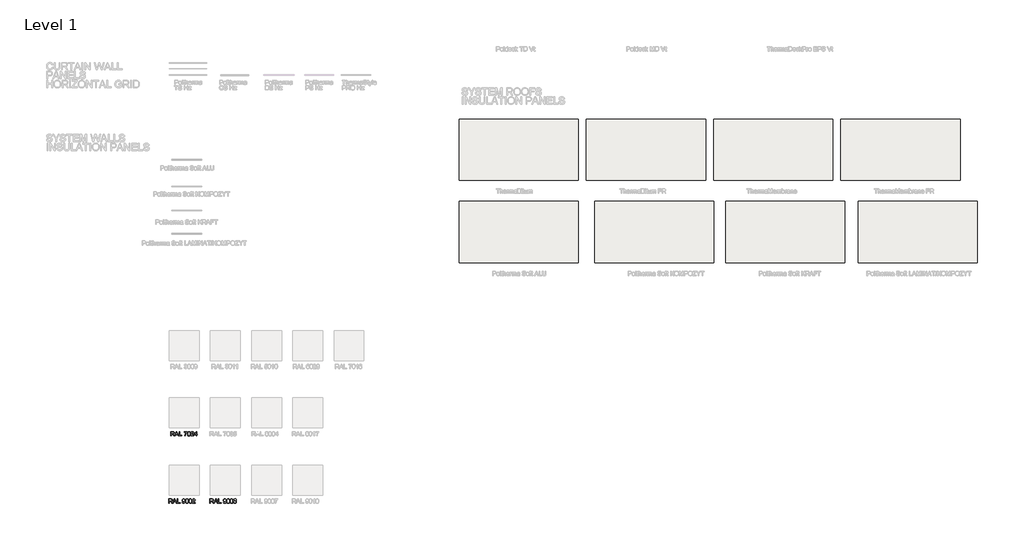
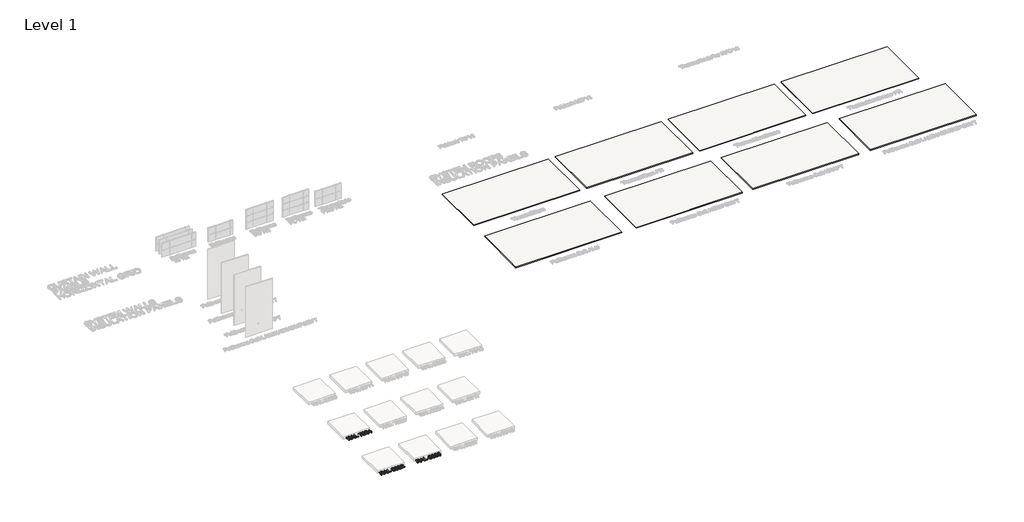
# One storey, part 3 of 27: 8 roofs, 3 proxies.
"""IFC4 building model written with IfcOpenShell, lengths in millimetres."""

import ifcopenshell
import ifcopenshell.guid

model = None  # the IFC model being written
_history = None  # IfcOwnerHistory: only IFC2X3 demands one
_inside = {}  # id of a spatial element -> (the spatial element, [elements in it])
_under = {}  # id of a project, library or spatial element -> (it, [spatial elements below it])
_declared = {}  # id of a project -> (the project, [libraries it declares])
_typed = {}  # id of a type object -> (the type object, [elements of that type])
_made_of = {}  # id of a material, layer set ... -> (it, [elements and type objects made of it])


def new_model(schema):
    """Start an empty IFC model of exactly this schema.

    Asked for "IFC4X3", IfcOpenShell would pick the latest addendum, in which some entities
    have other attributes; the version numbers below select the first issue.
    IFC2X3 requires an IfcOwnerHistory on every rooted entity: one is made here for all.
    """
    global model, _history
    if schema == "IFC4X3":
        model = ifcopenshell.file(schema_version=(4, 3, 0, 0))
    else:
        model = ifcopenshell.file(schema=schema)
    _inside.clear()
    _under.clear()
    _declared.clear()
    _typed.clear()
    _made_of.clear()
    _history = None
    if model.schema == "IFC2X3":
        org = make("IfcOrganization", Name="unknown")
        user = make(
            "IfcPersonAndOrganization",
            ThePerson=make("IfcPerson", FamilyName="unknown"),
            TheOrganization=org,
        )
        app = make(
            "IfcApplication",
            ApplicationDeveloper=org,
            Version="unknown",
            ApplicationFullName="unknown",
            ApplicationIdentifier="unknown",
        )
        _history = make(
            "IfcOwnerHistory",
            OwningUser=user,
            OwningApplication=app,
            ChangeAction="ADDED",
            CreationDate=0,
        )
    return model


def make(cls, **values):
    """One entity of the class cls with the attributes given. An attribute that is None is left unset."""
    return model.create_entity(
        cls, **{name: value for name, value in values.items() if value is not None}
    )


def rooted(cls, **values):
    """An entity with a GlobalId (a new one), such as an element, a storey or a relation."""
    return make(cls, GlobalId=ifcopenshell.guid.new(), OwnerHistory=_history, **values)


def si_unit(unit_type, name, prefix=None):
    """IfcSIUnit, for example si_unit("LENGTHUNIT", "METRE", prefix="MILLI")."""
    return make("IfcSIUnit", UnitType=unit_type, Prefix=prefix, Name=name)


def assignment(units):
    """IfcUnitAssignment: the units of a project."""
    return None if units is None else make("IfcUnitAssignment", Units=units)


def point(xyz):
    """IfcCartesianPoint."""
    return None if xyz is None else make("IfcCartesianPoint", Coordinates=xyz)


def direction(xyz):
    """IfcDirection."""
    return None if xyz is None else make("IfcDirection", DirectionRatios=xyz)


def frame(location, z_axis=None, x_axis=None):
    """IfcAxis2Placement3D, a coordinate frame: its origin and axes. An axis left out is left unset."""
    return make(
        "IfcAxis2Placement3D",
        Location=point(location),
        Axis=direction(z_axis),
        RefDirection=direction(x_axis),
    )


def origin():
    """The frame at (0, 0, 0) with its axes left unset."""
    return frame((0.0, 0.0, 0.0))


def origin_with_axes():
    """The frame at (0, 0, 0) with the z axis (0, 0, 1) and the x axis (1, 0, 0) written out."""
    return frame((0.0, 0.0, 0.0), z_axis=(0.0, 0.0, 1.0), x_axis=(1.0, 0.0, 0.0))


def place(relative_to, where):
    """IfcLocalPlacement: puts the frame where relative to a parent placement (None: the world)."""
    return make(
        "IfcLocalPlacement", PlacementRelTo=relative_to, RelativePlacement=where
    )


def context(
    kind, dimensions, precision=None, world=None, true_north=None, identifier=None
):
    """IfcGeometricRepresentationContext, for example the 3D "Model" context."""
    return make(
        "IfcGeometricRepresentationContext",
        ContextIdentifier=identifier,
        ContextType=kind,
        CoordinateSpaceDimension=dimensions,
        Precision=precision,
        WorldCoordinateSystem=world,
        TrueNorth=true_north,
    )


def project(units=None, contexts=None):
    """IfcProject with its units and contexts."""
    return rooted(
        "IfcProject",
        Name="project",
        RepresentationContexts=contexts,
        UnitsInContext=assignment(units),
    )


def spatial(cls, under=None, at=None, **own):
    """A site, building, storey or space (cls), placed at a placement, below another one or the project."""
    s = rooted(cls, ObjectPlacement=at, **own)
    if under is not None:
        _under.setdefault(under.id(), (under, []))[1].append(s)
    return s


def polyline(points):
    """IfcPolyline through the points."""
    return make("IfcPolyline", Points=[point(p) for p in points])


def outline(outer, holes=None, kind="AREA"):
    """IfcArbitraryClosedProfileDef: a profile drawn as a closed curve; with holes, ...WithVoids."""
    if holes is None:
        return make("IfcArbitraryClosedProfileDef", ProfileType=kind, OuterCurve=outer)
    return make(
        "IfcArbitraryProfileDefWithVoids",
        ProfileType=kind,
        OuterCurve=outer,
        InnerCurves=holes,
    )


def extrude(swept, where, along, depth):
    """IfcExtrudedAreaSolid: the profile swept, set in the frame where, extruded along a direction by depth."""
    return make(
        "IfcExtrudedAreaSolid",
        SweptArea=swept,
        Position=where,
        ExtrudedDirection=direction(along),
        Depth=depth,
    )


def shape(context_of_items, identifier, shape_type, items):
    """IfcShapeRepresentation: the items that make up one representation, for example the "Body"."""
    return make(
        "IfcShapeRepresentation",
        ContextOfItems=context_of_items,
        RepresentationIdentifier=identifier,
        RepresentationType=shape_type,
        Items=items,
    )


def made_of(thing, what):
    """Note that an element or type object is made of a material, layer set ...; save() writes the relation."""
    if what is not None:
        _made_of.setdefault(what.id(), (what, []))[1].append(thing)
    return thing


def element(
    cls,
    number,
    at=None,
    inside=None,
    cuts=None,
    type_object=None,
    material=None,
    context=None,
    identifier="Body",
    shape_type=None,
    held_by="IfcProductDefinitionShape",
    body=None,
    shapes=None,
    **own,
):
    """One element of the class cls, such as IfcWall. Its Tag is "e" and its number.

    at: its placement. inside: the storey or other place that contains it. cuts: it is an
    opening in that element (IfcRelVoidsElement). A single representation is given by context,
    identifier, shape_type and body (its items); several are given by shapes. held_by: the class
    of the entity that holds the representations. save() writes the other relations.
    """
    e = rooted(cls, Tag="e%d" % number, ObjectPlacement=at, **own)
    if body is not None:
        shapes = [shape(context, identifier, shape_type, body)]
    if shapes is not None:
        e.Representation = make(held_by, Representations=shapes)
    if inside is not None:
        _inside.setdefault(inside.id(), (inside, []))[1].append(e)
    if cuts is not None:
        rooted(
            "IfcRelVoidsElement", RelatingBuildingElement=cuts, RelatedOpeningElement=e
        )
    if type_object is not None:
        _typed.setdefault(type_object.id(), (type_object, []))[1].append(e)
    return made_of(e, material)


def aggregate(whole, parts):
    """IfcRelAggregates: a whole, such as a stair, and the parts it consists of."""
    return rooted("IfcRelAggregates", RelatingObject=whole, RelatedObjects=parts)


def save(model, path):
    """Write the relations noted so far, then the file.

    IfcRelAggregates (storeys below a building ...), IfcRelContainedInSpatialStructure (elements
    in a storey), IfcRelDefinesByType, IfcRelAssociatesMaterial and IfcRelDeclares: one each for
    every whole, place, type object, material and project.
    """
    for whole, parts in _under.values():
        aggregate(whole, parts)
    for where, things in _inside.values():
        rooted(
            "IfcRelContainedInSpatialStructure",
            RelatedElements=things,
            RelatingStructure=where,
        )
    for kind, things in _typed.values():
        rooted("IfcRelDefinesByType", RelatedObjects=things, RelatingType=kind)
    for what, things in _made_of.values():
        rooted("IfcRelAssociatesMaterial", RelatedObjects=things, RelatingMaterial=what)
    for by, libraries in _declared.values():
        rooted("IfcRelDeclares", RelatingContext=by, RelatedDefinitions=libraries)
    model.write(path)


model = new_model("IFC4")

# Units and contexts
model_context = context("Model", 3, world=origin())
ifc_project = project(units=[si_unit("LENGTHUNIT", "METRE", prefix="MILLI")], contexts=[model_context])

# Site, building, storey
site = spatial("IfcSite", under=ifc_project)
building = spatial("IfcBuilding", under=site)
storey = spatial("IfcBuildingStorey", under=building, Name="Level 1", Elevation=0.0)

# Proxies
placement = place(None, origin())
element("IfcBuildingElementProxy", 1, Name="600mm Arial", ObjectType="600mm Arial", at=placement, inside=storey, context=model_context, shape_type="SweptSolid", body=[
    extrude(outline(polyline([(-12376.4191783, -66508.2089819), (-12376.4191783, -65917.4397512), (-12121.8518706, -65917.4397512), (-12053.4323995, -65921.4241262), (-12003.6547552, -65933.3772512), (-11984.4450197, -65942.8784531), (-11967.2725437, -65955.4445588), (-11952.1373273, -65971.0755685), (-11939.0393706, -65989.7714819), (-11928.4699596, -66010.5271911), (-11920.9203802, -66032.3375877), (-11914.8807168, -66079.1224435), (-11917.3822192, -66109.4649915), (-11924.8867264, -66137.3195588), (-11937.3942384, -66162.6861454), (-11954.9047552, -66185.5647512), (-11977.6436374, -66205.2252079), (-12005.8362456, -66220.9373473), (-12039.4825798, -66232.7011694), (-12078.5826398, -66240.5166742), (-12054.2436975, -66256.4181165), (-12036.611486, -66272.1032127), (-11976.7557168, -66348.1128281), (-11878.2461014, -66508.2089819), (-11964.0634091, -66508.2089819), (-12040.9384091, -66385.7570588), (-12096.4672552, -66304.6993665), (-12117.1102841, -66281.0635492), (-12135.4816783, -66266.4060973), (-12170.6018706, -66252.3435973), (-12213.4384091, -66249.7474435), (-12302.5730245, -66249.7474435), (-12302.5730245, -66508.2089819), (-12376.4191783, -66508.2089819)]), holes=[polyline([(-12302.5730245, -66175.9012896), (-12137.2845629, -66175.9012896), (-12089.814611, -66173.2871069), (-12052.9816783, -66165.4445588), (-12025.2533129, -66151.8508088), (-12005.0970629, -66131.9830204), (-11992.8194187, -66107.9505685), (-11988.7268706, -66081.8628281), (-11990.6784932, -66062.9776117), (-11996.533361, -66045.8411935), (-12006.291474, -66030.4535733), (-12019.9528322, -66016.8147512), (-12037.8329403, -66005.645881), (-12060.2473033, -65997.6681165), (-12087.1959211, -65992.8814579), (-12118.6787937, -65991.285905), (-12302.5730245, -65991.285905), (-12302.5730245, -66175.9012896)])]), origin_with_axes(), (0.0, 0.0, 1.0), 150.0),
    extrude(outline(polyline([(-11854.4480245, -66508.2089819), (-11618.6307168, -65917.4397512), (-11555.7461014, -65917.4397512), (-11319.9287937, -66508.2089819), (-11397.9576398, -66508.2089819), (-11465.6018706, -66323.5935973), (-11708.9191783, -66323.5935973), (-11776.4191783, -66508.2089819), (-11854.4480245, -66508.2089819)]), holes=[polyline([(-11681.8037937, -66249.7474435), (-11492.5730245, -66249.7474435), (-11545.7941783, -66104.5070588), (-11587.1884091, -65991.285905), (-11623.9672552, -66091.8147512), (-11681.8037937, -66249.7474435)])]), origin_with_axes(), (0.0, 0.0, 1.0), 150.0),
    extrude(outline(polyline([(-11241.0345629, -66508.2089819), (-11241.0345629, -65917.4397512), (-11167.1884091, -65917.4397512), (-11167.1884091, -66434.3628281), (-10871.8037937, -66434.3628281), (-10871.8037937, -66508.2089819), (-11241.0345629, -66508.2089819)])), origin_with_axes(), (0.0, 0.0, 1.0), 150.0),
    extrude(outline(polyline([(-10585.6499475, -66000.5166742), (-10585.6499475, -65926.6705204), (-10197.9576398, -65926.6705204), (-10197.9576398, -65986.3820588), (-10253.2160533, -66056.3159531), (-10307.9336014, -66145.2522512), (-10356.1968225, -66245.0779723), (-10392.0922552, -66347.6801358), (-10409.6884091, -66424.4469627), (-10419.4961014, -66508.2089819), (-10493.3422552, -66508.2089819), (-10485.3554764, -66432.0911935), (-10463.9912937, -66341.6224435), (-10429.8266302, -66245.7270108), (-10383.4384091, -66153.3291742), (-10329.2797552, -66069.80153), (-10271.8037937, -66000.5166742), (-10585.6499475, -66000.5166742)])), origin_with_axes(), (0.0, 0.0, 1.0), 150.0),
    extrude(outline(polyline([(-10133.3422552, -66217.5839819), (-10127.9155725, -66123.0226838), (-10121.1322192, -66082.9220228), (-10111.6355245, -66047.6080204), (-10099.4660533, -66016.7922151), (-10084.6643706, -65990.1861454), (-10067.2304764, -65967.7898113), (-10047.1643706, -65949.6032127), (-10024.3984451, -65935.5316983), (-9998.8650918, -65925.4806165), (-9970.5643105, -65919.4499675), (-9939.4961014, -65917.4397512), (-9893.9912937, -65922.1993665), (-9853.2461014, -65936.4782127), (-9819.1715822, -65959.7173954), (-9793.6787937, -65991.3580204), (-9774.423986, -66031.129655), (-9759.0634091, -66078.7618665), (-9749.0033129, -66139.2486454), (-9745.6499475, -66217.5839819), (-9751.0225437, -66311.6044146), (-9757.7382889, -66351.5698593), (-9767.1403322, -66386.8387896), (-9779.2151519, -66417.6681165), (-9793.9492264, -66444.3147512), (-9811.3425557, -66466.7786935), (-9831.3951398, -66485.0599435), (-9854.1881086, -66499.2261093), (-9879.8025918, -66509.3447992), (-9908.2385894, -66515.4160132), (-9939.4961014, -66517.4397512), (-9980.1691783, -66513.9241262), (-10016.2268706, -66503.3772512), (-10047.6691783, -66485.7991262), (-10074.4961014, -66461.1897512), (-10100.2412937, -66416.7035733), (-10118.6307168, -66361.2738858), (-10129.6643706, -66294.9006887), (-10133.3422552, -66217.5839819)]), holes=[polyline([(-10059.4961014, -66217.4397512), (-10057.3326398, -66281.6359651), (-10050.8422552, -66333.5996069), (-10040.0249475, -66373.3306766), (-10024.8807168, -66400.8291742), (-10006.5634091, -66419.5386093), (-9986.2268706, -66432.9024915), (-9963.8711014, -66440.9208209), (-9939.4961014, -66443.5935973), (-9915.1211014, -66440.9118064), (-9892.7653322, -66432.8664338), (-9872.4287937, -66419.4574795), (-9854.111486, -66400.6849435), (-9838.9672552, -66373.1413738), (-9828.1499475, -66333.4193185), (-9821.6595629, -66281.5187776), (-9819.4961014, -66217.4397512), (-9821.5874475, -66154.942756), (-9827.861486, -66103.8940781), (-9838.3182168, -66064.2937175), (-9852.9576398, -66036.1416742), (-9870.9684572, -66016.5172752), (-9891.5393706, -66002.4998473), (-9914.6703802, -65994.0893906), (-9940.361486, -65991.285905), (-9964.6102841, -65993.7558569), (-9986.5874475, -66001.1657127), (-10006.2929764, -66013.5154723), (-10023.7268706, -66030.8051358), (-10039.3759091, -66061.4541742), (-10050.5537937, -66102.7762896), (-10057.2605245, -66154.7714819), (-10059.4961014, -66217.4397512)])]), origin_with_axes(), (0.0, 0.0, 1.0), 150.0),
    extrude(outline(polyline([(-9302.5730245, -66434.3628281), (-9302.5730245, -66508.2089819), (-9690.2653322, -66508.2089819), (-9688.642736, -66482.2113858), (-9682.3326398, -66457.2955204), (-9664.1235052, -66417.5058569), (-9637.4768706, -66378.9060973), (-9598.9311975, -66338.5034531), (-9545.0249475, -66293.3051358), (-9465.3374475, -66222.5238858), (-9417.5249475, -66170.2762896), (-9403.579635, -66148.9301358), (-9393.6186975, -66127.8724435), (-9387.642135, -66107.1032127), (-9385.6499475, -66086.6224435), (-9387.5294548, -66067.3541141), (-9393.1679764, -66049.64528), (-9402.5655124, -66033.4959411), (-9415.7220629, -66018.9060973), (-9431.9074596, -66006.8222632), (-9450.3915341, -65998.1909531), (-9471.1742865, -65993.012167), (-9494.2557168, -65991.285905), (-9518.572123, -65992.9716021), (-9540.3194187, -65998.0286935), (-9559.4976038, -66006.457179), (-9576.1066783, -66018.2570588), (-9589.5426759, -66033.0316983), (-9599.2016302, -66050.3844627), (-9605.0835413, -66070.3153521), (-9607.1884091, -66092.8243665), (-9681.0345629, -66083.5935973), (-9674.6839019, -66045.4716021), (-9663.1319187, -66012.1633088), (-9646.3786134, -65983.6687175), (-9624.423986, -65959.9878281), (-9597.7728442, -65941.3730444), (-9566.9299956, -65928.0767704), (-9531.8954403, -65920.099006), (-9492.6691783, -65917.4397512), (-9453.0913538, -65920.3964819), (-9417.8674956, -65929.2666742), (-9386.9976038, -65944.0503281), (-9360.4816783, -65964.7474435), (-9339.1851038, -65989.8255685), (-9323.9732648, -66017.7522512), (-9314.8461615, -66048.5274915), (-9311.8037937, -66082.1512896), (-9315.0850437, -66117.4697992), (-9324.9287937, -66152.1753281), (-9342.3987456, -66187.4758088), (-9368.5586014, -66224.5791742), (-9410.2593225, -66268.8760492), (-9474.3518706, -66325.7570588), (-9559.3037937, -66396.7907127), (-9592.6211014, -66434.3628281), (-9302.5730245, -66434.3628281)])), origin_with_axes(), (0.0, 0.0, 1.0), 150.0),
    extrude(outline(polyline([(-8988.7268706, -66508.2089819), (-8988.7268706, -66369.7474435), (-9256.4191783, -66369.7474435), (-9256.4191783, -66295.9012896), (-8970.2653322, -65926.6705204), (-8914.8807168, -65926.6705204), (-8914.8807168, -66295.9012896), (-8841.0345629, -66295.9012896), (-8841.0345629, -66369.7474435), (-8914.8807168, -66369.7474435), (-8914.8807168, -66508.2089819), (-8988.7268706, -66508.2089819)]), holes=[polyline([(-8988.7268706, -66295.9012896), (-8988.7268706, -66067.7282127), (-9165.5537937, -66295.9012896), (-8988.7268706, -66295.9012896)])]), origin_with_axes(), (0.0, 0.0, 1.0), 150.0),
])
element("IfcBuildingElementProxy", 2, Name="600mm Arial", ObjectType="600mm Arial", at=placement, inside=storey, context=model_context, shape_type="SweptSolid", body=[
    extrude(outline(polyline([(-7140.486023, -75508.2089819), (-7140.486023, -74917.4397512), (-6885.9187153, -74917.4397512), (-6817.4992441, -74921.4241262), (-6767.7215999, -74933.3772512), (-6748.5118643, -74942.8784531), (-6731.3393884, -74955.4445588), (-6716.204172, -74971.0755685), (-6703.1062153, -74989.7714819), (-6692.5368042, -75010.5271911), (-6684.9872249, -75032.3375877), (-6678.9475614, -75079.1224435), (-6681.4490638, -75109.4649915), (-6688.953571, -75137.3195588), (-6701.4610831, -75162.6861454), (-6718.9715999, -75185.5647512), (-6741.7104821, -75205.2252079), (-6769.9030903, -75220.9373473), (-6803.5494244, -75232.7011694), (-6842.6494845, -75240.5166742), (-6818.3105422, -75256.4181165), (-6800.6783307, -75272.1032127), (-6740.8225614, -75348.1128281), (-6642.312946, -75508.2089819), (-6728.1302537, -75508.2089819), (-6805.0052537, -75385.7570588), (-6860.5340999, -75304.6993665), (-6881.1771287, -75281.0635492), (-6899.548523, -75266.4060973), (-6934.6687153, -75252.3435973), (-6977.5052537, -75249.7474435), (-7066.6398691, -75249.7474435), (-7066.6398691, -75508.2089819), (-7140.486023, -75508.2089819)]), holes=[polyline([(-7066.6398691, -75175.9012896), (-6901.3514076, -75175.9012896), (-6853.8814557, -75173.2871069), (-6817.048523, -75165.4445588), (-6789.3201576, -75151.8508088), (-6769.1639076, -75131.9830204), (-6756.8862634, -75107.9505685), (-6752.7937153, -75081.8628281), (-6754.7453379, -75062.9776117), (-6760.6002057, -75045.8411935), (-6770.3583186, -75030.4535733), (-6784.0196768, -75016.8147512), (-6801.899785, -75005.645881), (-6824.314148, -74997.6681165), (-6851.2627658, -74992.8814579), (-6882.7456384, -74991.285905), (-7066.6398691, -74991.285905), (-7066.6398691, -75175.9012896)])]), origin_with_axes(), (0.0, 0.0, 1.0), 150.0),
    extrude(outline(polyline([(-6618.5148691, -75508.2089819), (-6382.6975614, -74917.4397512), (-6319.812946, -74917.4397512), (-6083.9956384, -75508.2089819), (-6162.0244845, -75508.2089819), (-6229.6687153, -75323.5935973), (-6472.986023, -75323.5935973), (-6540.486023, -75508.2089819), (-6618.5148691, -75508.2089819)]), holes=[polyline([(-6445.8706384, -75249.7474435), (-6256.6398691, -75249.7474435), (-6309.861023, -75104.5070588), (-6351.2552537, -74991.285905), (-6388.0340999, -75091.8147512), (-6445.8706384, -75249.7474435)])]), origin_with_axes(), (0.0, 0.0, 1.0), 150.0),
    extrude(outline(polyline([(-6005.1014076, -75508.2089819), (-6005.1014076, -74917.4397512), (-5931.2552537, -74917.4397512), (-5931.2552537, -75434.3628281), (-5635.8706384, -75434.3628281), (-5635.8706384, -75508.2089819), (-6005.1014076, -75508.2089819)])), origin_with_axes(), (0.0, 0.0, 1.0), 150.0),
    extrude(outline(polyline([(-5340.486023, -75360.5166742), (-5266.6398691, -75351.285905), (-5254.0196768, -75393.2029723), (-5244.734821, -75409.1449795), (-5233.4667922, -75421.7426358), (-5220.3417922, -75431.3024314), (-5205.486023, -75438.1308569), (-5170.5821768, -75443.5935973), (-5139.266071, -75440.0779723), (-5110.798523, -75429.5310973), (-5087.1446768, -75413.1068185), (-5070.2696768, -75391.9589819), (-5057.4872249, -75364.1585012), (-5046.111023, -75327.7762896), (-5038.1062153, -75286.0214819), (-5035.437946, -75242.1032127), (-5035.8706384, -75227.6801358), (-5061.453571, -75258.9060973), (-5094.9331384, -75283.6416742), (-5133.8934749, -75299.7594627), (-5175.9187153, -75305.1320588), (-5210.9983427, -75301.8508088), (-5243.2564557, -75292.0070588), (-5272.6930542, -75275.6008088), (-5299.3081384, -75252.6320588), (-5321.3619244, -75224.2997271), (-5337.1146287, -75191.8027319), (-5346.5662513, -75155.1410733), (-5349.7167922, -75114.3147512), (-5346.4130061, -75072.1272512), (-5336.501648, -75034.2666742), (-5319.9827177, -75000.7330204), (-5296.8562153, -74971.5262896), (-5268.7537513, -74947.863429), (-5237.3069364, -74930.9613858), (-5202.5157706, -74920.8201598), (-5164.3802537, -74917.4397512), (-5136.2237033, -74919.3688377), (-5109.3021287, -74925.1560973), (-5083.6155302, -74934.80153), (-5059.1639076, -74948.3051358), (-5036.7630662, -74965.3784531), (-5017.2288114, -74985.7330204), (-5000.5611432, -75009.3688377), (-4986.7600614, -75036.285905), (-4975.9382465, -75068.0347031), (-4968.2083787, -75106.1657127), (-4963.5704581, -75150.6789338), (-4962.0244845, -75201.5743665), (-4963.5659509, -75255.0253882), (-4968.1903499, -75302.7342223), (-4975.8976816, -75344.7008689), (-4986.687946, -75380.9253281), (-5000.5205783, -75412.2910132), (-5017.3550134, -75439.6813377), (-5037.1912513, -75463.0963016), (-5060.0292922, -75482.535905), (-5085.4094004, -75497.8063377), (-5112.8718403, -75508.7137896), (-5142.4166119, -75515.2582608), (-5174.0437153, -75517.4397512), (-5207.2077778, -75514.8661334), (-5237.1807345, -75507.14528), (-5263.9625855, -75494.2771911), (-5287.5533307, -75476.2618665), (-5307.3580182, -75453.5860853), (-5322.781696, -75426.7366262), (-5333.8243643, -75395.7134891), (-5340.486023, -75360.5166742)]), holes=[polyline([(-5035.8706384, -75112.5839819), (-5037.8628259, -75086.1176358), (-5043.8393884, -75062.535905), (-5053.8003259, -75041.8387896), (-5067.7456384, -75024.0262896), (-5084.9902297, -75009.7023713), (-5104.8490037, -74999.4710012), (-5127.3219605, -74993.332179), (-5152.4090999, -74991.285905), (-5178.298523, -74993.4899314), (-5201.736023, -75000.1020108), (-5222.7215999, -75011.122143), (-5241.2552537, -75026.5503281), (-5256.3994845, -75045.4851238), (-5267.2167922, -75067.0250877), (-5273.7071768, -75091.1702199), (-5275.8706384, -75117.9205204), (-5273.8243643, -75141.9124074), (-5267.6855422, -75163.55153), (-5257.454172, -75182.8378882), (-5243.1302537, -75199.7714819), (-5225.3087393, -75213.559042), (-5204.5845807, -75223.4072992), (-5180.9577778, -75229.3162536), (-5154.4283307, -75231.285905), (-5129.6882465, -75229.3162536), (-5107.2468403, -75223.4072992), (-5087.1041119, -75213.559042), (-5069.2600614, -75199.7714819), (-5054.6521888, -75182.5043545), (-5044.2179941, -75162.2173954), (-5037.9574773, -75138.9106045), (-5035.8706384, -75112.5839819)])]), origin_with_axes(), (0.0, 0.0, 1.0), 150.0),
    extrude(outline(polyline([(-4897.4090999, -75217.5839819), (-4891.9824172, -75123.0226838), (-4885.1990638, -75082.9220228), (-4875.7023691, -75047.6080204), (-4863.532898, -75016.7922151), (-4848.7312153, -74990.1861454), (-4831.297321, -74967.7898113), (-4811.2312153, -74949.6032127), (-4788.4652898, -74935.5316983), (-4762.9319364, -74925.4806165), (-4734.6311552, -74919.4499675), (-4703.562946, -74917.4397512), (-4658.0581384, -74922.1993665), (-4617.312946, -74936.4782127), (-4583.2384268, -74959.7173954), (-4557.7456384, -74991.3580204), (-4538.4908307, -75031.129655), (-4523.1302537, -75078.7618665), (-4513.0701576, -75139.2486454), (-4509.7167922, -75217.5839819), (-4515.0893884, -75311.6044146), (-4521.8051335, -75351.5698593), (-4531.2071768, -75386.8387896), (-4543.2819965, -75417.6681165), (-4558.016071, -75444.3147512), (-4575.4094004, -75466.7786935), (-4595.4619845, -75485.0599435), (-4618.2549533, -75499.2261093), (-4643.8694364, -75509.3447992), (-4672.305434, -75515.4160132), (-4703.562946, -75517.4397512), (-4744.236023, -75513.9241262), (-4780.2937153, -75503.3772512), (-4811.736023, -75485.7991262), (-4838.562946, -75461.1897512), (-4864.3081384, -75416.7035733), (-4882.6975614, -75361.2738858), (-4893.7312153, -75294.9006887), (-4897.4090999, -75217.5839819)]), holes=[polyline([(-4823.562946, -75217.4397512), (-4821.3994845, -75281.6359651), (-4814.9090999, -75333.5996069), (-4804.0917922, -75373.3306766), (-4788.9475614, -75400.8291742), (-4770.6302537, -75419.5386093), (-4750.2937153, -75432.9024915), (-4727.937946, -75440.9208209), (-4703.562946, -75443.5935973), (-4679.187946, -75440.9118064), (-4656.8321768, -75432.8664338), (-4636.4956384, -75419.4574795), (-4618.1783307, -75400.6849435), (-4603.0340999, -75373.1413738), (-4592.2167922, -75333.4193185), (-4585.7264076, -75281.5187776), (-4583.562946, -75217.4397512), (-4585.6542922, -75154.942756), (-4591.9283307, -75103.8940781), (-4602.3850614, -75064.2937175), (-4617.0244845, -75036.1416742), (-4635.0353018, -75016.5172752), (-4655.6062153, -75002.4998473), (-4678.7372249, -74994.0893906), (-4704.4283307, -74991.285905), (-4728.6771287, -74993.7558569), (-4750.6542922, -75001.1657127), (-4770.359821, -75013.5154723), (-4787.7937153, -75030.8051358), (-4803.4427537, -75061.4541742), (-4814.6206384, -75102.7762896), (-4821.3273691, -75154.7714819), (-4823.562946, -75217.4397512)])]), origin_with_axes(), (0.0, 0.0, 1.0), 150.0),
    extrude(outline(polyline([(-4445.1014076, -75217.5839819), (-4439.6747249, -75123.0226838), (-4432.8913715, -75082.9220228), (-4423.3946768, -75047.6080204), (-4411.2252057, -75016.7922151), (-4396.423523, -74990.1861454), (-4378.9896287, -74967.7898113), (-4358.923523, -74949.6032127), (-4336.1575975, -74935.5316983), (-4310.6242441, -74925.4806165), (-4282.3234629, -74919.4499675), (-4251.2552537, -74917.4397512), (-4205.750446, -74922.1993665), (-4165.0052537, -74936.4782127), (-4130.9307345, -74959.7173954), (-4105.437946, -74991.3580204), (-4086.1831384, -75031.129655), (-4070.8225614, -75078.7618665), (-4060.7624653, -75139.2486454), (-4057.4090999, -75217.5839819), (-4062.781696, -75311.6044146), (-4069.4974412, -75351.5698593), (-4078.8994845, -75386.8387896), (-4090.9743042, -75417.6681165), (-4105.7083787, -75444.3147512), (-4123.1017081, -75466.7786935), (-4143.1542922, -75485.0599435), (-4165.947261, -75499.2261093), (-4191.5617441, -75509.3447992), (-4219.9977417, -75515.4160132), (-4251.2552537, -75517.4397512), (-4291.9283307, -75513.9241262), (-4327.986023, -75503.3772512), (-4359.4283307, -75485.7991262), (-4386.2552537, -75461.1897512), (-4412.000446, -75416.7035733), (-4430.3898691, -75361.2738858), (-4441.423523, -75294.9006887), (-4445.1014076, -75217.5839819)]), holes=[polyline([(-4371.2552537, -75217.4397512), (-4369.0917922, -75281.6359651), (-4362.6014076, -75333.5996069), (-4351.7840999, -75373.3306766), (-4336.6398691, -75400.8291742), (-4318.3225614, -75419.5386093), (-4297.986023, -75432.9024915), (-4275.6302537, -75440.9208209), (-4251.2552537, -75443.5935973), (-4226.8802537, -75440.9118064), (-4204.5244845, -75432.8664338), (-4184.187946, -75419.4574795), (-4165.8706384, -75400.6849435), (-4150.7264076, -75373.1413738), (-4139.9090999, -75333.4193185), (-4133.4187153, -75281.5187776), (-4131.2552537, -75217.4397512), (-4133.3465999, -75154.942756), (-4139.6206384, -75103.8940781), (-4150.0773691, -75064.2937175), (-4164.7167922, -75036.1416742), (-4182.7276095, -75016.5172752), (-4203.298523, -75002.4998473), (-4226.4295326, -74994.0893906), (-4252.1206384, -74991.285905), (-4276.3694364, -74993.7558569), (-4298.3465999, -75001.1657127), (-4318.0521287, -75013.5154723), (-4335.486023, -75030.8051358), (-4351.1350614, -75061.4541742), (-4362.312946, -75102.7762896), (-4369.0196768, -75154.7714819), (-4371.2552537, -75217.4397512)])]), origin_with_axes(), (0.0, 0.0, 1.0), 150.0),
    extrude(outline(polyline([(-3614.3321768, -75074.3628281), (-3688.1783307, -75083.5935973), (-3700.0773691, -75046.9950396), (-3716.1590999, -75022.0070588), (-3732.0334989, -75008.566554), (-3749.656696, -74998.9661935), (-3769.0286912, -74993.2059771), (-3790.1494845, -74991.285905), (-3824.4764076, -74995.7570588), (-3856.7840999, -75009.1705204), (-3884.5304941, -75037.4217223), (-3907.1927537, -75076.3099435), (-3916.0494244, -75101.1131286), (-3922.4992441, -75131.3159531), (-3928.1783307, -75207.9205204), (-3898.5569364, -75173.3592223), (-3863.0581384, -75149.0022512), (-3823.6651095, -75134.5611454), (-3782.361023, -75129.7474435), (-3746.8802537, -75133.0377079), (-3714.1398691, -75142.9085012), (-3684.1398691, -75159.3598233), (-3656.8802537, -75182.3916742), (-3634.2270085, -75210.6338617), (-3618.0461191, -75242.7161935), (-3608.3375855, -75278.6386694), (-3605.1014076, -75318.4012896), (-3611.1951576, -75371.2798954), (-3618.8123451, -75396.2723834), (-3629.4764076, -75420.3003281), (-3642.8087393, -75442.4667944), (-3658.4307345, -75461.8748473), (-3676.3423932, -75478.5244867), (-3696.5437153, -75492.4157127), (-3718.6020085, -75503.3637295), (-3742.0845807, -75511.1837415), (-3766.9914316, -75515.8757488), (-3793.3225614, -75517.4397512), (-3837.3444965, -75513.2931165), (-3877.1026095, -75500.8532127), (-3912.5969004, -75480.1200396), (-3943.8273691, -75451.0935973), (-3969.2886071, -75412.5479242), (-3987.4752057, -75363.2570588), (-3998.3871648, -75303.2210012), (-4002.0244845, -75232.4397512), (-3997.986023, -75153.0857848), (-3985.8706384, -75085.3604242), (-3965.6783307, -75029.2636694), (-3952.5533307, -75005.5760192), (-3937.4090999, -74984.7955204), (-3906.7690759, -74955.3273713), (-3871.2432345, -74934.2786935), (-3830.8315759, -74921.6494867), (-3785.5340999, -74917.4397512), (-3751.5226816, -74920.0449194), (-3720.7384268, -74927.8604242), (-3693.1813355, -74940.8862656), (-3668.8514076, -74959.1224435), (-3648.406696, -74981.9559771), (-3632.5052537, -75008.7738858), (-3621.1470807, -75039.5761694), (-3614.3321768, -75074.3628281)]), holes=[polyline([(-3928.1783307, -75317.2474435), (-3923.9054941, -75349.9697992), (-3911.0869845, -75381.2137896), (-3891.1831384, -75408.0767704), (-3865.6542922, -75427.6560973), (-3834.8429941, -75439.6092223), (-3799.0917922, -75443.5935973), (-3773.4232225, -75441.5292944), (-3750.359821, -75435.3363858), (-3729.9015879, -75425.0148713), (-3712.048523, -75410.5647512), (-3697.5668523, -75392.5719627), (-3687.2228018, -75371.6224435), (-3681.0163715, -75347.7161935), (-3678.9475614, -75320.8532127), (-3680.9893283, -75295.0404122), (-3687.1146287, -75272.1212415), (-3697.3234629, -75252.0957007), (-3711.6158307, -75234.9637896), (-3729.5229821, -75221.2393305), (-3750.5761672, -75211.4361454), (-3774.775386, -75205.5542343), (-3802.1206384, -75203.5935973), (-3827.44666, -75205.5542343), (-3850.7804941, -75211.4361454), (-3872.1221408, -75221.2393305), (-3891.4715999, -75234.9637896), (-3907.5307946, -75251.8703401), (-3919.001648, -75271.2197992), (-3925.88416, -75293.012167), (-3928.1783307, -75317.2474435)])]), origin_with_axes(), (0.0, 0.0, 1.0), 150.0),
])
element("IfcBuildingElementProxy", 3, Name="600mm Arial", ObjectType="600mm Arial", at=placement, inside=storey, context=model_context, shape_type="SweptSolid", body=[
    extrude(outline(polyline([(-12640.486023, -75508.2089819), (-12640.486023, -74917.4397512), (-12385.9187153, -74917.4397512), (-12317.4992441, -74921.4241262), (-12267.7215999, -74933.3772512), (-12248.5118643, -74942.8784531), (-12231.3393884, -74955.4445588), (-12216.204172, -74971.0755685), (-12203.1062153, -74989.7714819), (-12192.5368042, -75010.5271911), (-12184.9872249, -75032.3375877), (-12178.9475614, -75079.1224435), (-12181.4490638, -75109.4649915), (-12188.953571, -75137.3195588), (-12201.4610831, -75162.6861454), (-12218.9715999, -75185.5647512), (-12241.7104821, -75205.2252079), (-12269.9030903, -75220.9373473), (-12303.5494244, -75232.7011694), (-12342.6494845, -75240.5166742), (-12318.3105422, -75256.4181165), (-12300.6783307, -75272.1032127), (-12240.8225614, -75348.1128281), (-12142.312946, -75508.2089819), (-12228.1302537, -75508.2089819), (-12305.0052537, -75385.7570588), (-12360.5340999, -75304.6993665), (-12381.1771287, -75281.0635492), (-12399.548523, -75266.4060973), (-12434.6687153, -75252.3435973), (-12477.5052537, -75249.7474435), (-12566.6398691, -75249.7474435), (-12566.6398691, -75508.2089819), (-12640.486023, -75508.2089819)]), holes=[polyline([(-12566.6398691, -75175.9012896), (-12401.3514076, -75175.9012896), (-12353.8814557, -75173.2871069), (-12317.048523, -75165.4445588), (-12289.3201576, -75151.8508088), (-12269.1639076, -75131.9830204), (-12256.8862634, -75107.9505685), (-12252.7937153, -75081.8628281), (-12254.7453379, -75062.9776117), (-12260.6002057, -75045.8411935), (-12270.3583186, -75030.4535733), (-12284.0196768, -75016.8147512), (-12301.899785, -75005.645881), (-12324.314148, -74997.6681165), (-12351.2627658, -74992.8814579), (-12382.7456384, -74991.285905), (-12566.6398691, -74991.285905), (-12566.6398691, -75175.9012896)])]), origin_with_axes(), (0.0, 0.0, 1.0), 150.0),
    extrude(outline(polyline([(-12118.5148691, -75508.2089819), (-11882.6975614, -74917.4397512), (-11819.812946, -74917.4397512), (-11583.9956384, -75508.2089819), (-11662.0244845, -75508.2089819), (-11729.6687153, -75323.5935973), (-11972.986023, -75323.5935973), (-12040.486023, -75508.2089819), (-12118.5148691, -75508.2089819)]), holes=[polyline([(-11945.8706384, -75249.7474435), (-11756.6398691, -75249.7474435), (-11809.861023, -75104.5070588), (-11851.2552537, -74991.285905), (-11888.0340999, -75091.8147512), (-11945.8706384, -75249.7474435)])]), origin_with_axes(), (0.0, 0.0, 1.0), 150.0),
    extrude(outline(polyline([(-11505.1014076, -75508.2089819), (-11505.1014076, -74917.4397512), (-11431.2552537, -74917.4397512), (-11431.2552537, -75434.3628281), (-11135.8706384, -75434.3628281), (-11135.8706384, -75508.2089819), (-11505.1014076, -75508.2089819)])), origin_with_axes(), (0.0, 0.0, 1.0), 150.0),
    extrude(outline(polyline([(-10840.486023, -75360.5166742), (-10766.6398691, -75351.285905), (-10754.0196768, -75393.2029723), (-10744.734821, -75409.1449795), (-10733.4667922, -75421.7426358), (-10720.3417922, -75431.3024314), (-10705.486023, -75438.1308569), (-10670.5821768, -75443.5935973), (-10639.266071, -75440.0779723), (-10610.798523, -75429.5310973), (-10587.1446768, -75413.1068185), (-10570.2696768, -75391.9589819), (-10557.4872249, -75364.1585012), (-10546.111023, -75327.7762896), (-10538.1062153, -75286.0214819), (-10535.437946, -75242.1032127), (-10535.8706384, -75227.6801358), (-10561.453571, -75258.9060973), (-10594.9331384, -75283.6416742), (-10633.8934749, -75299.7594627), (-10675.9187153, -75305.1320588), (-10710.9983427, -75301.8508088), (-10743.2564557, -75292.0070588), (-10772.6930542, -75275.6008088), (-10799.3081384, -75252.6320588), (-10821.3619244, -75224.2997271), (-10837.1146287, -75191.8027319), (-10846.5662513, -75155.1410733), (-10849.7167922, -75114.3147512), (-10846.4130061, -75072.1272512), (-10836.501648, -75034.2666742), (-10819.9827177, -75000.7330204), (-10796.8562153, -74971.5262896), (-10768.7537513, -74947.863429), (-10737.3069364, -74930.9613858), (-10702.5157706, -74920.8201598), (-10664.3802537, -74917.4397512), (-10636.2237033, -74919.3688377), (-10609.3021287, -74925.1560973), (-10583.6155302, -74934.80153), (-10559.1639076, -74948.3051358), (-10536.7630662, -74965.3784531), (-10517.2288114, -74985.7330204), (-10500.5611432, -75009.3688377), (-10486.7600614, -75036.285905), (-10475.9382465, -75068.0347031), (-10468.2083787, -75106.1657127), (-10463.5704581, -75150.6789338), (-10462.0244845, -75201.5743665), (-10463.5659509, -75255.0253882), (-10468.1903499, -75302.7342223), (-10475.8976816, -75344.7008689), (-10486.687946, -75380.9253281), (-10500.5205783, -75412.2910132), (-10517.3550134, -75439.6813377), (-10537.1912513, -75463.0963016), (-10560.0292922, -75482.535905), (-10585.4094004, -75497.8063377), (-10612.8718403, -75508.7137896), (-10642.4166119, -75515.2582608), (-10674.0437153, -75517.4397512), (-10707.2077778, -75514.8661334), (-10737.1807345, -75507.14528), (-10763.9625855, -75494.2771911), (-10787.5533307, -75476.2618665), (-10807.3580182, -75453.5860853), (-10822.781696, -75426.7366262), (-10833.8243643, -75395.7134891), (-10840.486023, -75360.5166742)]), holes=[polyline([(-10535.8706384, -75112.5839819), (-10537.8628259, -75086.1176358), (-10543.8393884, -75062.535905), (-10553.8003259, -75041.8387896), (-10567.7456384, -75024.0262896), (-10584.9902297, -75009.7023713), (-10604.8490037, -74999.4710012), (-10627.3219605, -74993.332179), (-10652.4090999, -74991.285905), (-10678.298523, -74993.4899314), (-10701.736023, -75000.1020108), (-10722.7215999, -75011.122143), (-10741.2552537, -75026.5503281), (-10756.3994845, -75045.4851238), (-10767.2167922, -75067.0250877), (-10773.7071768, -75091.1702199), (-10775.8706384, -75117.9205204), (-10773.8243643, -75141.9124074), (-10767.6855422, -75163.55153), (-10757.454172, -75182.8378882), (-10743.1302537, -75199.7714819), (-10725.3087393, -75213.559042), (-10704.5845807, -75223.4072992), (-10680.9577778, -75229.3162536), (-10654.4283307, -75231.285905), (-10629.6882465, -75229.3162536), (-10607.2468403, -75223.4072992), (-10587.1041119, -75213.559042), (-10569.2600614, -75199.7714819), (-10554.6521888, -75182.5043545), (-10544.2179941, -75162.2173954), (-10537.9574773, -75138.9106045), (-10535.8706384, -75112.5839819)])]), origin_with_axes(), (0.0, 0.0, 1.0), 150.0),
    extrude(outline(polyline([(-10397.4090999, -75217.5839819), (-10391.9824172, -75123.0226838), (-10385.1990638, -75082.9220228), (-10375.7023691, -75047.6080204), (-10363.532898, -75016.7922151), (-10348.7312153, -74990.1861454), (-10331.297321, -74967.7898113), (-10311.2312153, -74949.6032127), (-10288.4652898, -74935.5316983), (-10262.9319364, -74925.4806165), (-10234.6311552, -74919.4499675), (-10203.562946, -74917.4397512), (-10158.0581384, -74922.1993665), (-10117.312946, -74936.4782127), (-10083.2384268, -74959.7173954), (-10057.7456384, -74991.3580204), (-10038.4908307, -75031.129655), (-10023.1302537, -75078.7618665), (-10013.0701576, -75139.2486454), (-10009.7167922, -75217.5839819), (-10015.0893884, -75311.6044146), (-10021.8051335, -75351.5698593), (-10031.2071768, -75386.8387896), (-10043.2819965, -75417.6681165), (-10058.016071, -75444.3147512), (-10075.4094004, -75466.7786935), (-10095.4619845, -75485.0599435), (-10118.2549533, -75499.2261093), (-10143.8694364, -75509.3447992), (-10172.305434, -75515.4160132), (-10203.562946, -75517.4397512), (-10244.236023, -75513.9241262), (-10280.2937153, -75503.3772512), (-10311.736023, -75485.7991262), (-10338.562946, -75461.1897512), (-10364.3081384, -75416.7035733), (-10382.6975614, -75361.2738858), (-10393.7312153, -75294.9006887), (-10397.4090999, -75217.5839819)]), holes=[polyline([(-10323.562946, -75217.4397512), (-10321.3994845, -75281.6359651), (-10314.9090999, -75333.5996069), (-10304.0917922, -75373.3306766), (-10288.9475614, -75400.8291742), (-10270.6302537, -75419.5386093), (-10250.2937153, -75432.9024915), (-10227.937946, -75440.9208209), (-10203.562946, -75443.5935973), (-10179.187946, -75440.9118064), (-10156.8321768, -75432.8664338), (-10136.4956384, -75419.4574795), (-10118.1783307, -75400.6849435), (-10103.0340999, -75373.1413738), (-10092.2167922, -75333.4193185), (-10085.7264076, -75281.5187776), (-10083.562946, -75217.4397512), (-10085.6542922, -75154.942756), (-10091.9283307, -75103.8940781), (-10102.3850614, -75064.2937175), (-10117.0244845, -75036.1416742), (-10135.0353018, -75016.5172752), (-10155.6062153, -75002.4998473), (-10178.7372249, -74994.0893906), (-10204.4283307, -74991.285905), (-10228.6771287, -74993.7558569), (-10250.6542922, -75001.1657127), (-10270.359821, -75013.5154723), (-10287.7937153, -75030.8051358), (-10303.4427537, -75061.4541742), (-10314.6206384, -75102.7762896), (-10321.3273691, -75154.7714819), (-10323.562946, -75217.4397512)])]), origin_with_axes(), (0.0, 0.0, 1.0), 150.0),
    extrude(outline(polyline([(-9945.1014076, -75217.5839819), (-9939.6747249, -75123.0226838), (-9932.8913715, -75082.9220228), (-9923.3946768, -75047.6080204), (-9911.2252057, -75016.7922151), (-9896.423523, -74990.1861454), (-9878.9896287, -74967.7898113), (-9858.923523, -74949.6032127), (-9836.1575975, -74935.5316983), (-9810.6242441, -74925.4806165), (-9782.3234629, -74919.4499675), (-9751.2552537, -74917.4397512), (-9705.750446, -74922.1993665), (-9665.0052537, -74936.4782127), (-9630.9307345, -74959.7173954), (-9605.437946, -74991.3580204), (-9586.1831384, -75031.129655), (-9570.8225614, -75078.7618665), (-9560.7624653, -75139.2486454), (-9557.4090999, -75217.5839819), (-9562.781696, -75311.6044146), (-9569.4974412, -75351.5698593), (-9578.8994845, -75386.8387896), (-9590.9743042, -75417.6681165), (-9605.7083787, -75444.3147512), (-9623.1017081, -75466.7786935), (-9643.1542922, -75485.0599435), (-9665.947261, -75499.2261093), (-9691.5617441, -75509.3447992), (-9719.9977417, -75515.4160132), (-9751.2552537, -75517.4397512), (-9791.9283307, -75513.9241262), (-9827.986023, -75503.3772512), (-9859.4283307, -75485.7991262), (-9886.2552537, -75461.1897512), (-9912.000446, -75416.7035733), (-9930.3898691, -75361.2738858), (-9941.423523, -75294.9006887), (-9945.1014076, -75217.5839819)]), holes=[polyline([(-9871.2552537, -75217.4397512), (-9869.0917922, -75281.6359651), (-9862.6014076, -75333.5996069), (-9851.7840999, -75373.3306766), (-9836.6398691, -75400.8291742), (-9818.3225614, -75419.5386093), (-9797.986023, -75432.9024915), (-9775.6302537, -75440.9208209), (-9751.2552537, -75443.5935973), (-9726.8802537, -75440.9118064), (-9704.5244845, -75432.8664338), (-9684.187946, -75419.4574795), (-9665.8706384, -75400.6849435), (-9650.7264076, -75373.1413738), (-9639.9090999, -75333.4193185), (-9633.4187153, -75281.5187776), (-9631.2552537, -75217.4397512), (-9633.3465999, -75154.942756), (-9639.6206384, -75103.8940781), (-9650.0773691, -75064.2937175), (-9664.7167922, -75036.1416742), (-9682.7276095, -75016.5172752), (-9703.298523, -75002.4998473), (-9726.4295326, -74994.0893906), (-9752.1206384, -74991.285905), (-9776.3694364, -74993.7558569), (-9798.3465999, -75001.1657127), (-9818.0521287, -75013.5154723), (-9835.486023, -75030.8051358), (-9851.1350614, -75061.4541742), (-9862.312946, -75102.7762896), (-9869.0196768, -75154.7714819), (-9871.2552537, -75217.4397512)])]), origin_with_axes(), (0.0, 0.0, 1.0), 150.0),
    extrude(outline(polyline([(-9114.3321768, -75434.3628281), (-9114.3321768, -75508.2089819), (-9502.0244845, -75508.2089819), (-9500.4018884, -75482.2113858), (-9494.0917922, -75457.2955204), (-9475.8826576, -75417.5058569), (-9449.236023, -75378.9060973), (-9410.6903499, -75338.5034531), (-9356.7840999, -75293.3051358), (-9277.0965999, -75222.5238858), (-9229.2840999, -75170.2762896), (-9215.3387874, -75148.9301358), (-9205.3778499, -75127.8724435), (-9199.4012874, -75107.1032127), (-9197.4090999, -75086.6224435), (-9199.2886071, -75067.3541141), (-9204.9271287, -75049.64528), (-9214.3246648, -75033.4959411), (-9227.4812153, -75018.9060973), (-9243.6666119, -75006.8222632), (-9262.1506864, -74998.1909531), (-9282.9334388, -74993.012167), (-9306.0148691, -74991.285905), (-9330.3312754, -74992.9716021), (-9352.078571, -74998.0286935), (-9371.2567561, -75006.457179), (-9387.8658307, -75018.2570588), (-9401.3018283, -75033.0316983), (-9410.9607826, -75050.3844627), (-9416.8426936, -75070.3153521), (-9418.9475614, -75092.8243665), (-9492.7937153, -75083.5935973), (-9486.4430542, -75045.4716021), (-9474.891071, -75012.1633088), (-9458.1377658, -74983.6687175), (-9436.1831384, -74959.9878281), (-9409.5319965, -74941.3730444), (-9378.689148, -74928.0767704), (-9343.6545927, -74920.099006), (-9304.4283307, -74917.4397512), (-9264.8505061, -74920.3964819), (-9229.626648, -74929.2666742), (-9198.7567561, -74944.0503281), (-9172.2408307, -74964.7474435), (-9150.9442561, -74989.8255685), (-9135.7324172, -75017.7522512), (-9126.6053138, -75048.5274915), (-9123.562946, -75082.1512896), (-9126.844196, -75117.4697992), (-9136.687946, -75152.1753281), (-9154.157898, -75187.4758088), (-9180.3177537, -75224.5791742), (-9222.0184749, -75268.8760492), (-9286.111023, -75325.7570588), (-9371.062946, -75396.7907127), (-9404.3802537, -75434.3628281), (-9114.3321768, -75434.3628281)])), origin_with_axes(), (0.0, 0.0, 1.0), 150.0),
])

# Roofs
element("IfcRoof", 4, ObjectType="Europanels_ThermaBitum_60mm", at=placement, inside=storey, context=model_context, shape_type="SweptSolid", body=[
    extrude(outline(polyline([(26158.0428639, -32353.7876357), (26158.0428639, -24173.7876357), (42089.1316518, -24173.7876357), (42089.1316518, -32353.7876357), (26158.0428639, -32353.7876357)])), frame((0.0, 0.0, -29.4239875), z_axis=(0.0, 0.0, 1.0), x_axis=(1.0, 0.0, 0.0)), (0.0, 0.0, 1.0), 60.0),
])
element("IfcRoof", 5, ObjectType="Europanels_ThermaBitum FR_100mm", at=placement, inside=storey, context=model_context, shape_type="SweptSolid", body=[
    extrude(outline(polyline([(43158.0428639, -32353.7876357), (43158.0428639, -24173.7876357), (59089.1316518, -24173.7876357), (59089.1316518, -32353.7876357), (43158.0428639, -32353.7876357)])), frame((0.0, 0.0, -69.4239875), z_axis=(0.0, 0.0, 1.0), x_axis=(1.0, 0.0, 0.0)), (0.0, 0.0, 1.0), 100.0),
])
element("IfcRoof", 6, ObjectType="Europanels_ThermaMembrane_80mm", at=placement, inside=storey, context=model_context, shape_type="SweptSolid", body=[
    extrude(outline(polyline([(60158.0428639, -32353.7876357), (60158.0428639, -24173.7876357), (76089.1316518, -24173.7876357), (76089.1316518, -32353.7876357), (60158.0428639, -32353.7876357)])), frame((0.0, 0.0, -49.4239875), z_axis=(0.0, 0.0, 1.0), x_axis=(1.0, 0.0, 0.0)), (0.0, 0.0, 1.0), 80.0),
])
element("IfcRoof", 7, ObjectType="Europanels_ThermaMembrane FR_100mm", at=placement, inside=storey, context=model_context, shape_type="SweptSolid", body=[
    extrude(outline(polyline([(77158.0428639, -32353.7876357), (77158.0428639, -24173.7876357), (93089.1316518, -24173.7876357), (93089.1316518, -32353.7876357), (77158.0428639, -32353.7876357)])), frame((0.0, 0.0, -69.4239875), z_axis=(0.0, 0.0, 1.0), x_axis=(1.0, 0.0, 0.0)), (0.0, 0.0, 1.0), 100.0),
])
element("IfcRoof", 8, ObjectType="Europanels_PolTherma Soft_ALU_100mm", at=placement, inside=storey, context=model_context, shape_type="SweptSolid", body=[
    extrude(outline(polyline([(26158.0428639, -43353.7876357), (26158.0428639, -35173.7876357), (42089.1316518, -35173.7876357), (42089.1316518, -43353.7876357), (26158.0428639, -43353.7876357)])), frame((0.0, 0.0, -69.4239875), z_axis=(0.0, 0.0, 1.0), x_axis=(1.0, 0.0, 0.0)), (0.0, 0.0, 1.0), 100.0),
])
element("IfcRoof", 9, ObjectType="Europanels_PolTherma Soft_KOMPOZYT_100mm", at=placement, inside=storey, context=model_context, shape_type="SweptSolid", body=[
    extrude(outline(polyline([(44258.0428639, -43353.7876357), (44258.0428639, -35173.7876357), (60189.1316518, -35173.7876357), (60189.1316518, -43353.7876357), (44258.0428639, -43353.7876357)])), frame((0.0, 0.0, -69.4239875), z_axis=(0.0, 0.0, 1.0), x_axis=(1.0, 0.0, 0.0)), (0.0, 0.0, 1.0), 100.0),
])
element("IfcRoof", 10, ObjectType="Europanels_PolTherma Soft_KRAFT_100mm", at=placement, inside=storey, context=model_context, shape_type="SweptSolid", body=[
    extrude(outline(polyline([(61758.0428639, -43353.7876357), (61758.0428639, -35173.7876357), (77689.1316518, -35173.7876357), (77689.1316518, -43353.7876357), (61758.0428639, -43353.7876357)])), frame((0.0, 0.0, -69.4239875), z_axis=(0.0, 0.0, 1.0), x_axis=(1.0, 0.0, 0.0)), (0.0, 0.0, 1.0), 100.0),
])
element("IfcRoof", 11, ObjectType="Europanels_PolTherma Soft_LAMINAT/KOMPOZYT_100mm", at=placement, inside=storey, context=model_context, shape_type="SweptSolid", body=[
    extrude(outline(polyline([(79458.0428639, -43353.7876357), (79458.0428639, -35173.7876357), (95389.1316518, -35173.7876357), (95389.1316518, -43353.7876357), (79458.0428639, -43353.7876357)])), frame((0.0, 0.0, -69.4239875), z_axis=(0.0, 0.0, 1.0), x_axis=(1.0, 0.0, 0.0)), (0.0, 0.0, 1.0), 100.0),
])

save(model, "model.ifc")
